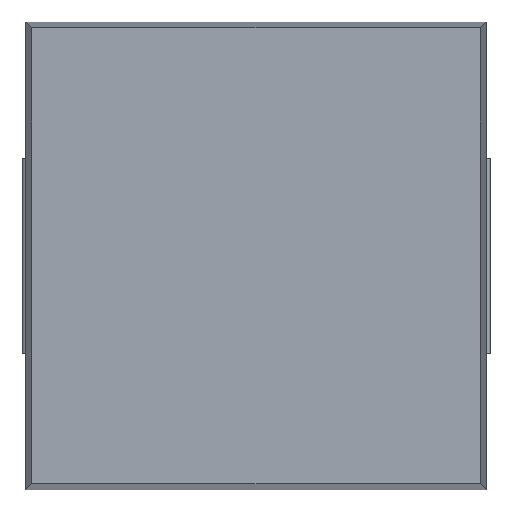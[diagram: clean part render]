
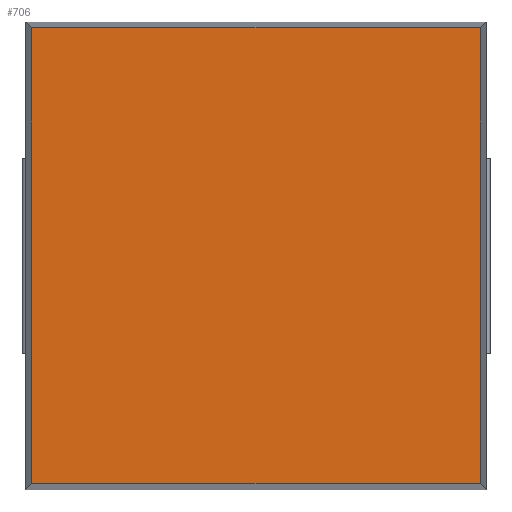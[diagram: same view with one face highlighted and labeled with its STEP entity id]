
A CAD part, top view. The second image highlights one B-rep face of the part: STEP entity #706.
In plain terms, the highlighted planar face has unit normal (0, 0, 1).
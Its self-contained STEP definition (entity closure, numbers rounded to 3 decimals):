
#145 = PLANE('',#146);
#146 = AXIS2_PLACEMENT_3D('',#147,#148,#149);
#147 = CARTESIAN_POINT('',(-5.823,-6.,4.6));
#148 = DIRECTION('',(0.999,0.,
    -0.046));
#149 = DIRECTION('',(0.,1.,0.));
#231 = PLANE('',#232);
#232 = AXIS2_PLACEMENT_3D('',#233,#234,#235);
#233 = CARTESIAN_POINT('',(-5.9,-5.923,4.6));
#234 = DIRECTION('',(0.,0.999,
    -0.046));
#235 = DIRECTION('',(-1.,0.,0.));
#328 = VERTEX_POINT('',#329);
#329 = CARTESIAN_POINT('',(-5.745,-5.845,6.3));
#352 = VERTEX_POINT('',#353);
#353 = CARTESIAN_POINT('',(-5.745,5.845,6.3));
#367 = PLANE('',#368);
#368 = AXIS2_PLACEMENT_3D('',#369,#370,#371);
#369 = CARTESIAN_POINT('',(-5.9,5.923,4.6));
#370 = DIRECTION('',(0.,0.999,0.046
    ));
#371 = DIRECTION('',(-1.,0.,0.));
#379 = EDGE_CURVE('',#328,#352,#380,.T.);
#380 = SURFACE_CURVE('',#381,(#385,#392),.PCURVE_S1.);
#381 = LINE('',#382,#383);
#382 = CARTESIAN_POINT('',(-5.745,-6.,6.3));
#383 = VECTOR('',#384,1.);
#384 = DIRECTION('',(0.,1.,0.));
#385 = PCURVE('',#145,#386);
#386 = DEFINITIONAL_REPRESENTATION('',(#387),#391);
#387 = LINE('',#388,#389);
#388 = CARTESIAN_POINT('',(0.,1.702));
#389 = VECTOR('',#390,1.);
#390 = DIRECTION('',(1.,0.));
#391 = ( GEOMETRIC_REPRESENTATION_CONTEXT(2) 
PARAMETRIC_REPRESENTATION_CONTEXT() REPRESENTATION_CONTEXT('2D SPACE',''
  ) );
#392 = PCURVE('',#393,#398);
#393 = PLANE('',#394);
#394 = AXIS2_PLACEMENT_3D('',#395,#396,#397);
#395 = CARTESIAN_POINT('',(-5.9,-6.,6.3));
#396 = DIRECTION('',(0.,0.,1.));
#397 = DIRECTION('',(1.,0.,0.));
#398 = DEFINITIONAL_REPRESENTATION('',(#399),#403);
#399 = LINE('',#400,#401);
#400 = CARTESIAN_POINT('',(0.155,0.));
#401 = VECTOR('',#402,1.);
#402 = DIRECTION('',(0.,1.));
#403 = ( GEOMETRIC_REPRESENTATION_CONTEXT(2) 
PARAMETRIC_REPRESENTATION_CONTEXT() REPRESENTATION_CONTEXT('2D SPACE',''
  ) );
#521 = PLANE('',#522);
#522 = AXIS2_PLACEMENT_3D('',#523,#524,#525);
#523 = CARTESIAN_POINT('',(5.823,-6.,4.6));
#524 = DIRECTION('',(0.999,0.,
    0.046));
#525 = DIRECTION('',(0.,1.,0.));
#588 = VERTEX_POINT('',#589);
#589 = CARTESIAN_POINT('',(5.745,-5.845,6.3));
#610 = EDGE_CURVE('',#328,#588,#611,.T.);
#611 = SURFACE_CURVE('',#612,(#616,#623),.PCURVE_S1.);
#612 = LINE('',#613,#614);
#613 = CARTESIAN_POINT('',(-5.9,-5.845,6.3));
#614 = VECTOR('',#615,1.);
#615 = DIRECTION('',(1.,0.,0.));
#616 = PCURVE('',#231,#617);
#617 = DEFINITIONAL_REPRESENTATION('',(#618),#622);
#618 = LINE('',#619,#620);
#619 = CARTESIAN_POINT('',(-0.,1.702));
#620 = VECTOR('',#621,1.);
#621 = DIRECTION('',(-1.,0.));
#622 = ( GEOMETRIC_REPRESENTATION_CONTEXT(2) 
PARAMETRIC_REPRESENTATION_CONTEXT() REPRESENTATION_CONTEXT('2D SPACE',''
  ) );
#623 = PCURVE('',#393,#624);
#624 = DEFINITIONAL_REPRESENTATION('',(#625),#629);
#625 = LINE('',#626,#627);
#626 = CARTESIAN_POINT('',(0.,0.155));
#627 = VECTOR('',#628,1.);
#628 = DIRECTION('',(1.,0.));
#629 = ( GEOMETRIC_REPRESENTATION_CONTEXT(2) 
PARAMETRIC_REPRESENTATION_CONTEXT() REPRESENTATION_CONTEXT('2D SPACE',''
  ) );
#706 = ADVANCED_FACE('',(#707),#393,.T.);
#707 = FACE_BOUND('',#708,.T.);
#708 = EDGE_LOOP('',(#709,#710,#711,#734));
#709 = ORIENTED_EDGE('',*,*,#379,.F.);
#710 = ORIENTED_EDGE('',*,*,#610,.T.);
#711 = ORIENTED_EDGE('',*,*,#712,.T.);
#712 = EDGE_CURVE('',#588,#713,#715,.T.);
#713 = VERTEX_POINT('',#714);
#714 = CARTESIAN_POINT('',(5.745,5.845,6.3));
#715 = SURFACE_CURVE('',#716,(#720,#727),.PCURVE_S1.);
#716 = LINE('',#717,#718);
#717 = CARTESIAN_POINT('',(5.745,-6.,6.3));
#718 = VECTOR('',#719,1.);
#719 = DIRECTION('',(0.,1.,0.));
#720 = PCURVE('',#393,#721);
#721 = DEFINITIONAL_REPRESENTATION('',(#722),#726);
#722 = LINE('',#723,#724);
#723 = CARTESIAN_POINT('',(11.645,0.));
#724 = VECTOR('',#725,1.);
#725 = DIRECTION('',(0.,1.));
#726 = ( GEOMETRIC_REPRESENTATION_CONTEXT(2) 
PARAMETRIC_REPRESENTATION_CONTEXT() REPRESENTATION_CONTEXT('2D SPACE',''
  ) );
#727 = PCURVE('',#521,#728);
#728 = DEFINITIONAL_REPRESENTATION('',(#729),#733);
#729 = LINE('',#730,#731);
#730 = CARTESIAN_POINT('',(0.,1.702));
#731 = VECTOR('',#732,1.);
#732 = DIRECTION('',(1.,0.));
#733 = ( GEOMETRIC_REPRESENTATION_CONTEXT(2) 
PARAMETRIC_REPRESENTATION_CONTEXT() REPRESENTATION_CONTEXT('2D SPACE',''
  ) );
#734 = ORIENTED_EDGE('',*,*,#735,.F.);
#735 = EDGE_CURVE('',#352,#713,#736,.T.);
#736 = SURFACE_CURVE('',#737,(#741,#748),.PCURVE_S1.);
#737 = LINE('',#738,#739);
#738 = CARTESIAN_POINT('',(-5.9,5.845,6.3));
#739 = VECTOR('',#740,1.);
#740 = DIRECTION('',(1.,0.,0.));
#741 = PCURVE('',#393,#742);
#742 = DEFINITIONAL_REPRESENTATION('',(#743),#747);
#743 = LINE('',#744,#745);
#744 = CARTESIAN_POINT('',(0.,11.845));
#745 = VECTOR('',#746,1.);
#746 = DIRECTION('',(1.,0.));
#747 = ( GEOMETRIC_REPRESENTATION_CONTEXT(2) 
PARAMETRIC_REPRESENTATION_CONTEXT() REPRESENTATION_CONTEXT('2D SPACE',''
  ) );
#748 = PCURVE('',#367,#749);
#749 = DEFINITIONAL_REPRESENTATION('',(#750),#754);
#750 = LINE('',#751,#752);
#751 = CARTESIAN_POINT('',(-0.,1.702));
#752 = VECTOR('',#753,1.);
#753 = DIRECTION('',(-1.,0.));
#754 = ( GEOMETRIC_REPRESENTATION_CONTEXT(2) 
PARAMETRIC_REPRESENTATION_CONTEXT() REPRESENTATION_CONTEXT('2D SPACE',''
  ) );
